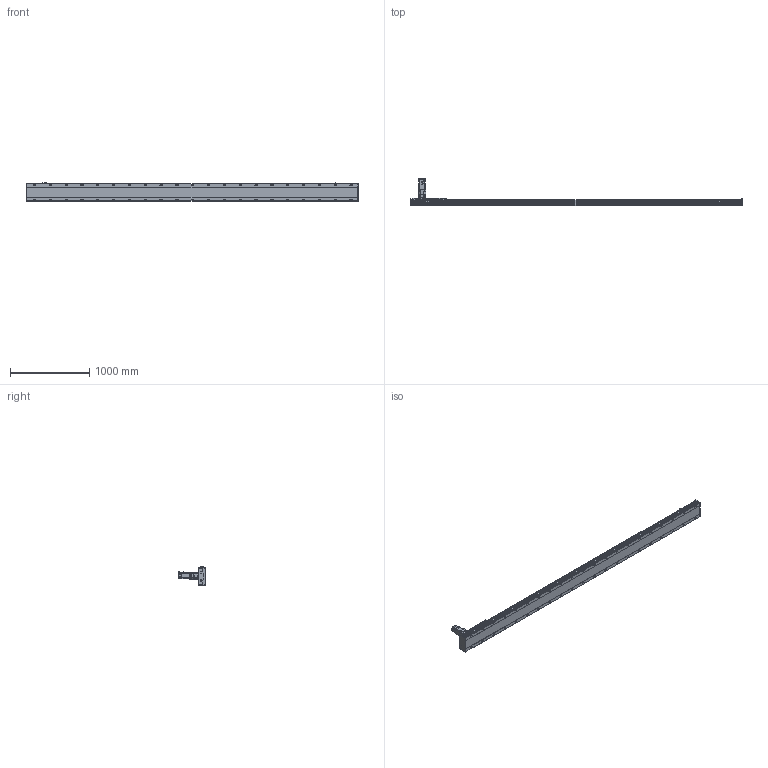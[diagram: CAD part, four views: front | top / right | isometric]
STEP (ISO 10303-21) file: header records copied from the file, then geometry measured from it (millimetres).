
FILE_DESCRIPTION(/* description */ ('STEP AP214'),/* implementation_level */ '2;1');
FILE_NAME(/* name */ 'SHS22A-L13-S3700-BC-T75-C1-N(0)',/* time_stamp */ '2022-06-15T02:28:24+02:00',/* author */ ('License CC BY-ND 4.0'),/* organization */ ('CADENAS'),/* preprocessor_version */ 'ST-DEVELOPER v18.102',/* originating_system */ 'PARTsolutions',/* authorisation */ ' ');
FILE_SCHEMA (('AUTOMOTIVE_DESIGN {1 0 10303 214 3 1 1}'));
Length unit declared in the file: millimetre
Products named in the file (7): SHS22A-L13-S3700-BC-T75-C1-N(0); PSC140-sensor; SHS22A-S3700_body2; T75-p1; SHS22A-S3700_body3; SHS22A-S3700_slider; SHS22A-L13-S3700-BC-T75-C1(0)_body
Assembly tree (13 placements, depth 2):
  SHS22A-L13-S3700-BC-T75-C1-N(0)
    PSC140-sensor  x3
    SHS22A-S3700_body2  x6
    T75-p1
    SHS22A-S3700_body3
    SHS22A-S3700_slider
    SHS22A-L13-S3700-BC-T75-C1(0)_body
Bounding box: 4194 x 350.8 x 238.4 mm (x, y, z)
Volume: 45050413.6 mm3; surface area: 4611570.2 mm2
Topology: 13 solids, 13 shells, 1953 faces, 5003 edges, 3274 vertices
Faces by surface type: plane 1364, cylinder 473, cone 107, torus 9
Full cylindrical faces by diameter (mm): 2.8 x3, 4.2 x2, 4.6 x3, 4.917 x4, 5 x4, 5.6 x24, 6 x31, 6.6 x24, 6.647 x8, 6.8 x9, 7.75 x6, 8 x3, 8.376 x42, 8.5 x42, 10 x4, 11 x4, 12 x24, 14 x42, 22 x1, 24.1 x1, 28 x1, 28.2 x1, 28.8 x1, 48.542 x1, 68 x1, 70 x1, 78 x1, 80 x2
Entity records: 33155 total; most frequent: CARTESIAN_POINT 5999, DIRECTION 5621, ORIENTED_EDGE 5016, EDGE_CURVE 2508, AXIS2_PLACEMENT_3D 2018, VERTEX_POINT 1822, FACE_BOUND 1786, EDGE_LOOP 1785
